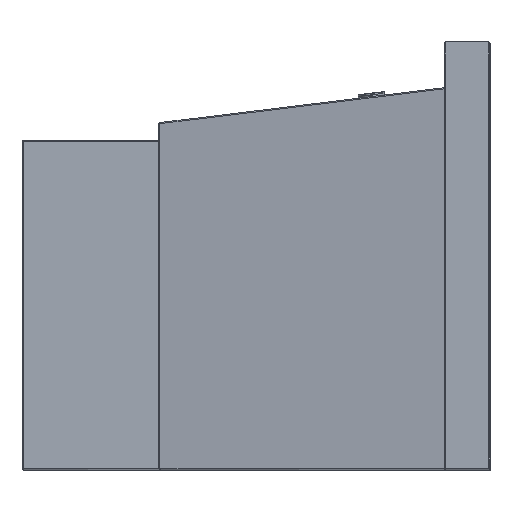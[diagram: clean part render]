
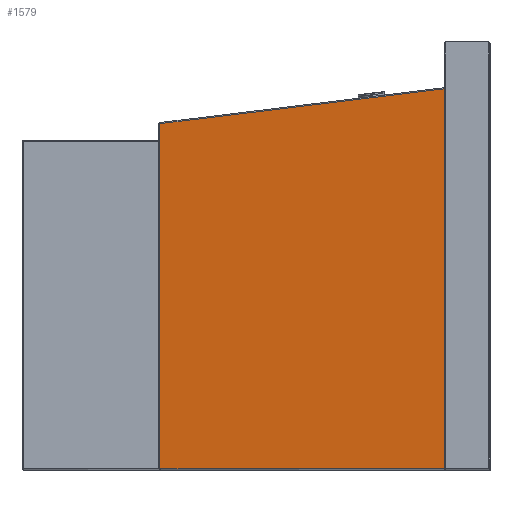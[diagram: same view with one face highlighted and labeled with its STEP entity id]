
A CAD part, left-side view. The second image highlights one B-rep face of the part: STEP entity #1579.
In plain terms, the highlighted planar face has unit normal (-0.993, 0.122, 0).
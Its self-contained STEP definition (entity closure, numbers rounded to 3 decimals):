
#250=DIRECTION('',(0.,0.,1.));
#251=VECTOR('',#250,666.015);
#252=CARTESIAN_POINT('',(-969.5,80.,-373.));
#253=LINE('',#252,#251);
#362=DIRECTION('',(0.,0.,1.));
#363=VECTOR('',#362,604.838);
#364=CARTESIAN_POINT('',(-908.323,578.244,-373.));
#365=LINE('',#364,#363);
#366=DIRECTION('',(-0.121,-0.985,0.121));
#367=VECTOR('',#366,505.7);
#368=CARTESIAN_POINT('',(-908.323,578.244,231.838));
#369=LINE('',#368,#367);
#370=DIRECTION('',(-0.122,-0.993,0.));
#371=VECTOR('',#370,501.985);
#372=CARTESIAN_POINT('',(-908.323,578.244,-373.));
#373=LINE('',#372,#371);
#957=CARTESIAN_POINT('',(-908.323,578.244,-373.));
#958=CARTESIAN_POINT('',(-908.323,578.244,231.838));
#959=VERTEX_POINT('',#957);
#960=VERTEX_POINT('',#958);
#963=CARTESIAN_POINT('',(-969.5,80.,-373.));
#964=VERTEX_POINT('',#963);
#1009=CARTESIAN_POINT('',(-969.5,80.,293.015));
#1010=VERTEX_POINT('',#1009);
#1566=CARTESIAN_POINT('',(-969.5,80.,-403.649));
#1567=DIRECTION('',(-0.993,0.122,0.));
#1568=DIRECTION('',(0.,0.,1.));
#1569=AXIS2_PLACEMENT_3D('',#1566,#1567,#1568);
#1570=PLANE('',#1569);
#1572=ORIENTED_EDGE('',*,*,#1571,.T.);
#1573=ORIENTED_EDGE('',*,*,#1551,.T.);
#1574=ORIENTED_EDGE('',*,*,#1347,.F.);
#1576=ORIENTED_EDGE('',*,*,#1575,.F.);
#1577=EDGE_LOOP('',(#1572,#1573,#1574,#1576));
#1578=FACE_OUTER_BOUND('',#1577,.F.);
#1347=EDGE_CURVE('',#964,#1010,#253,.T.);
#1551=EDGE_CURVE('',#960,#1010,#369,.T.);
#1571=EDGE_CURVE('',#959,#960,#365,.T.);
#1575=EDGE_CURVE('',#959,#964,#373,.T.);
#1579=ADVANCED_FACE('',(#1578),#1570,.T.);
